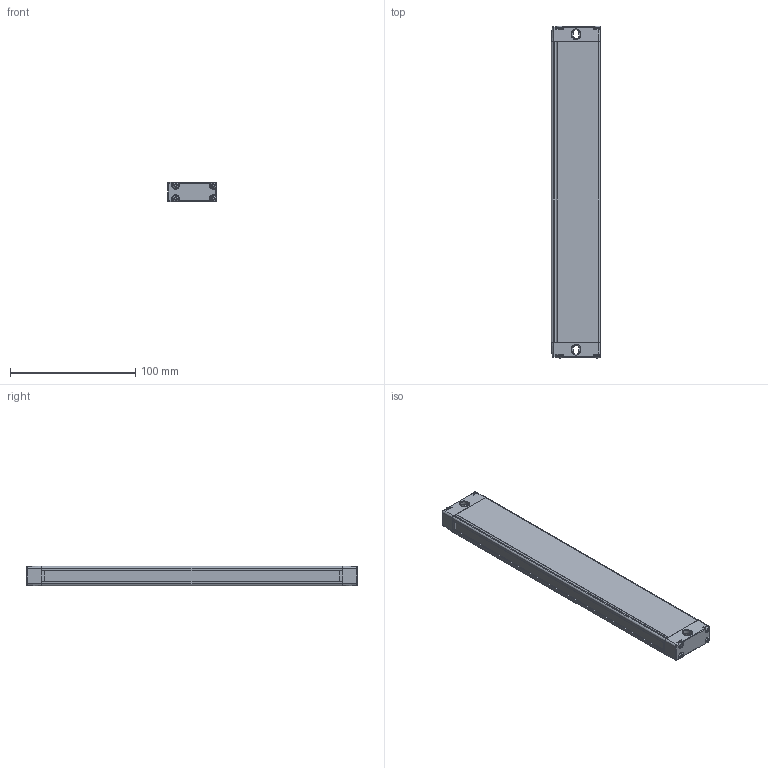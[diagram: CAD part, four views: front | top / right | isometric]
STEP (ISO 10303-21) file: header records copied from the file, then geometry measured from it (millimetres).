
FILE_DESCRIPTION((''),'2;1');
FILE_NAME('EB15--3610_ASM','2021-07-22T09:57:17',('18720616900'),(''),'CREO PARAMETRIC BY PTC INC, 2019010','CREO PARAMETRIC BY PTC INC, 2019010','');
FILE_SCHEMA(('CONFIG_CONTROL_DESIGN'));
Length unit declared in the file: millimetre
Products named in the file (6): EB15-00; EB15-000; EB15-0003; EB15-0004; ST-3-12; EB15--3610_ASM
Assembly tree (12 placements, depth 2):
  EB15--3610_ASM
    EB15-00
    EB15-000
    EB15-0003
    EB15-0004
    ST-3-12  x8
Bounding box: 39.15 x 265 x 15.8 mm (x, y, z)
Volume: 158677 mm3; surface area: 42836.7 mm2
Topology: 12 solids, 12 shells, 827 faces, 2188 edges, 1368 vertices
Faces by surface type: plane 242, bspline 188, cone 176, cylinder 165, torus 40, sphere 16
Entity records: 16044 total; most frequent: CARTESIAN_POINT 7660, ORIENTED_EDGE 1804, DIRECTION 1603, EDGE_CURVE 902, AXIS2_PLACEMENT_3D 577, VERTEX_POINT 563, VECTOR 449, LINE 449
